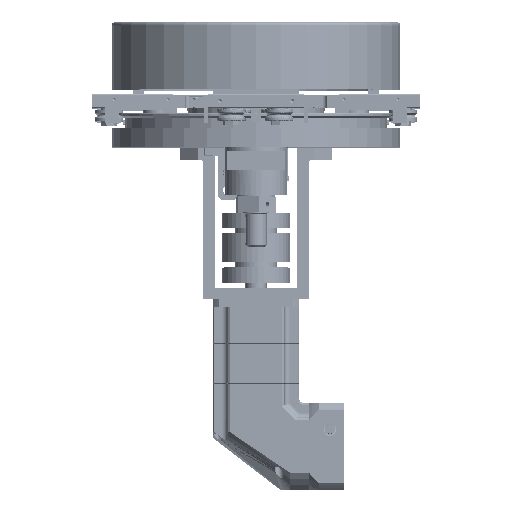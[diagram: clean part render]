
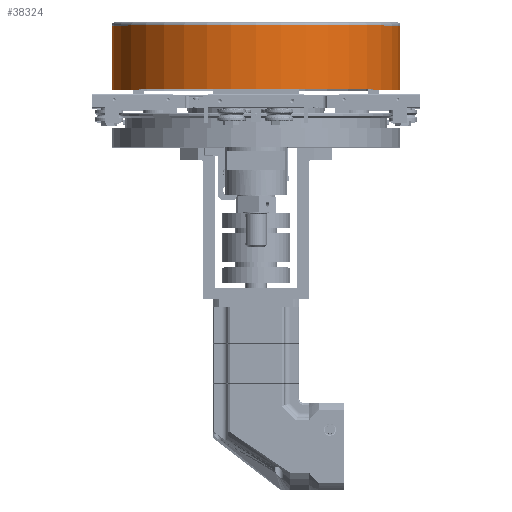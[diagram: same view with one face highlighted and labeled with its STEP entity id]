
A CAD part, top view. The second image highlights one B-rep face of the part: STEP entity #38324.
In plain terms, the highlighted cylindrical face has radius 150 mm (diameter 300 mm), a partial arc.
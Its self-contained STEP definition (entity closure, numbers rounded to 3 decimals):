
#585 = CARTESIAN_POINT ( 'NONE',  ( -210.75, 149.998, -3.5 ) ) ;
#3772 = CARTESIAN_POINT ( 'NONE',  ( -210., 0., -1.5 ) ) ;
#4380 = ORIENTED_EDGE ( 'NONE', *, *, #72769, .T. ) ;
#5616 = DIRECTION ( 'NONE',  ( 1., 0., 0. ) ) ;
#6295 = LINE ( 'NONE', #17765, #69841 ) ;
#17765 = CARTESIAN_POINT ( 'NONE',  ( -210., -150., -1.5 ) ) ;
#20331 = CIRCLE ( 'NONE', #39519, 150. ) ;
#24334 = FACE_OUTER_BOUND ( 'NONE', #92084, .T. ) ;
#38324 = ADVANCED_FACE ( 'NONE', ( #24334 ), #155380, .T. ) ;
#39519 = AXIS2_PLACEMENT_3D ( 'NONE', #113224, #89841, #63126 ) ;
#42796 = CARTESIAN_POINT ( 'NONE',  ( -210., 0., -3.5 ) ) ;
#52563 = AXIS2_PLACEMENT_3D ( 'NONE', #42796, #69443, #5616 ) ;
#53057 = VERTEX_POINT ( 'NONE', #154628 ) ;
#53970 = EDGE_CURVE ( 'NONE', #149539, #53057, #6295, .T. ) ;
#57267 = ORIENTED_EDGE ( 'NONE', *, *, #107619, .F. ) ;
#63126 = DIRECTION ( 'NONE',  ( 1., 0., 0. ) ) ;
#69443 = DIRECTION ( 'NONE',  ( 0., 0., 1. ) ) ;
#69841 = VECTOR ( 'NONE', #118899, 1000. ) ;
#72769 = EDGE_CURVE ( 'NONE', #97191, #53057, #20331, .T. ) ;
#80401 = DIRECTION ( 'NONE',  ( 0., 0., 1. ) ) ;
#89841 = DIRECTION ( 'NONE',  ( 0., 0., 1. ) ) ;
#89907 = VECTOR ( 'NONE', #137210, 1000. ) ;
#92084 = EDGE_LOOP ( 'NONE', ( #4380, #157652, #57267, #156439 ) ) ;
#93777 = EDGE_CURVE ( 'NONE', #161509, #97191, #131623, .T. ) ;
#97191 = VERTEX_POINT ( 'NONE', #163768 ) ;
#107619 = EDGE_CURVE ( 'NONE', #161509, #149539, #117373, .T. ) ;
#113224 = CARTESIAN_POINT ( 'NONE',  ( -210., 0., -70. ) ) ;
#117373 = CIRCLE ( 'NONE', #52563, 150. ) ;
#118899 = DIRECTION ( 'NONE',  ( 0., 0., -1. ) ) ;
#119116 = AXIS2_PLACEMENT_3D ( 'NONE', #3772, #80401, #156921 ) ;
#131623 = LINE ( 'NONE', #149951, #89907 ) ;
#137210 = DIRECTION ( 'NONE',  ( 0., 0., -1. ) ) ;
#141462 = CARTESIAN_POINT ( 'NONE',  ( -210., -150., -3.5 ) ) ;
#149539 = VERTEX_POINT ( 'NONE', #141462 ) ;
#149951 = CARTESIAN_POINT ( 'NONE',  ( -210.75, 149.998, -1.5 ) ) ;
#154628 = CARTESIAN_POINT ( 'NONE',  ( -210., -150., -70. ) ) ;
#155380 = CYLINDRICAL_SURFACE ( 'NONE', #119116, 150. ) ;
#156439 = ORIENTED_EDGE ( 'NONE', *, *, #93777, .T. ) ;
#156921 = DIRECTION ( 'NONE',  ( 1., 0., 0. ) ) ;
#157652 = ORIENTED_EDGE ( 'NONE', *, *, #53970, .F. ) ;
#161509 = VERTEX_POINT ( 'NONE', #585 ) ;
#163768 = CARTESIAN_POINT ( 'NONE',  ( -210.75, 149.998, -70. ) ) ;
